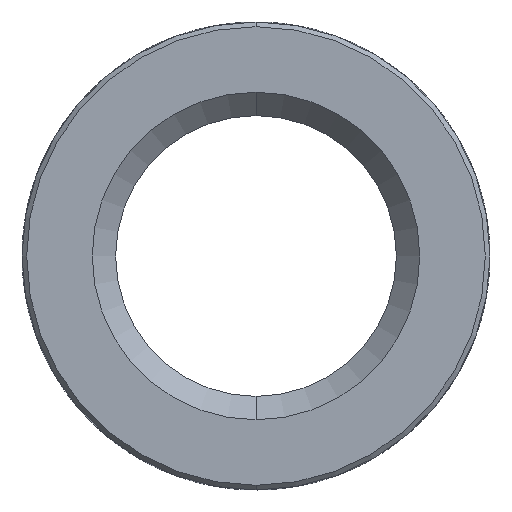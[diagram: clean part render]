
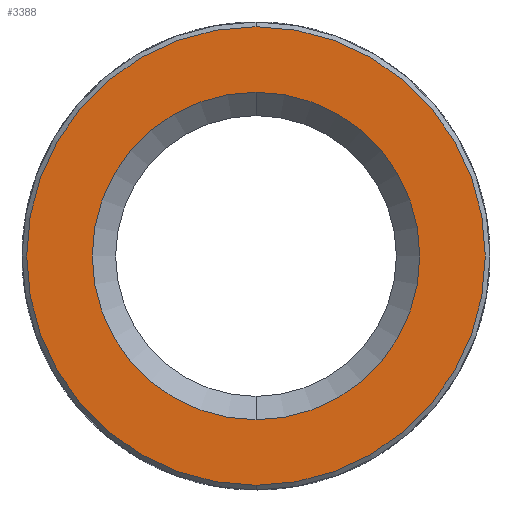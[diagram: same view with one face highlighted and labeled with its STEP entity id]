
A CAD part, front view. The second image highlights one B-rep face of the part: STEP entity #3388.
In plain terms, the highlighted planar face has unit normal (0, -1, 0).
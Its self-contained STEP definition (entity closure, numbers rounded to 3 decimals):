
#71 = VERTEX_POINT ( 'NONE', #3006 ) ;
#195 = DIRECTION ( 'NONE',  ( 0., 0., -1. ) ) ;
#206 = ORIENTED_EDGE ( 'NONE', *, *, #1276, .T. ) ;
#242 = DIRECTION ( 'NONE',  ( 0., 1., 0. ) ) ;
#246 = CARTESIAN_POINT ( 'NONE',  ( 0., -8.1, -4.9 ) ) ;
#314 = CIRCLE ( 'NONE', #3642, 3.5 ) ;
#339 = ORIENTED_EDGE ( 'NONE', *, *, #3165, .T. ) ;
#421 = CARTESIAN_POINT ( 'NONE',  ( 0., -8.1, 4.9 ) ) ;
#500 = DIRECTION ( 'NONE',  ( 0., -1., 0. ) ) ;
#546 = CARTESIAN_POINT ( 'NONE',  ( 0., -8.1, 0. ) ) ;
#882 = EDGE_CURVE ( 'NONE', #1732, #3601, #1440, .T. ) ;
#1048 = CIRCLE ( 'NONE', #2293, 4.9 ) ;
#1064 = CARTESIAN_POINT ( 'NONE',  ( 0., -8.1, 5. ) ) ;
#1094 = CARTESIAN_POINT ( 'NONE',  ( 0., -8.1, 0. ) ) ;
#1149 = FACE_BOUND ( 'NONE', #1962, .T. ) ;
#1276 = EDGE_CURVE ( 'NONE', #3288, #71, #1937, .T. ) ;
#1440 = CIRCLE ( 'NONE', #2211, 4.9 ) ;
#1611 = PLANE ( 'NONE',  #2006 ) ;
#1643 = DIRECTION ( 'NONE',  ( 0., -1., 0. ) ) ;
#1687 = FACE_OUTER_BOUND ( 'NONE', #2898, .T. ) ;
#1695 = DIRECTION ( 'NONE',  ( 0., 0., -1. ) ) ;
#1699 = DIRECTION ( 'NONE',  ( 0., 0., -1. ) ) ;
#1732 = VERTEX_POINT ( 'NONE', #246 ) ;
#1813 = ORIENTED_EDGE ( 'NONE', *, *, #882, .T. ) ;
#1937 = CIRCLE ( 'NONE', #3699, 3.5 ) ;
#1939 = CARTESIAN_POINT ( 'NONE',  ( 0., -8.1, 0. ) ) ;
#1962 = EDGE_LOOP ( 'NONE', ( #206, #339 ) ) ;
#2006 = AXIS2_PLACEMENT_3D ( 'NONE', #1064, #1643, #195 ) ;
#2092 = CARTESIAN_POINT ( 'NONE',  ( 0., -8.1, 0. ) ) ;
#2211 = AXIS2_PLACEMENT_3D ( 'NONE', #1939, #500, #1699 ) ;
#2293 = AXIS2_PLACEMENT_3D ( 'NONE', #2092, #2698, #2412 ) ;
#2412 = DIRECTION ( 'NONE',  ( 0., 0., -1. ) ) ;
#2591 = DIRECTION ( 'NONE',  ( 0., 0., -1. ) ) ;
#2698 = DIRECTION ( 'NONE',  ( 0., -1., 0. ) ) ;
#2898 = EDGE_LOOP ( 'NONE', ( #3386, #1813 ) ) ;
#3006 = CARTESIAN_POINT ( 'NONE',  ( 0., -8.1, 3.5 ) ) ;
#3025 = EDGE_CURVE ( 'NONE', #3601, #1732, #1048, .T. ) ;
#3165 = EDGE_CURVE ( 'NONE', #71, #3288, #314, .T. ) ;
#3288 = VERTEX_POINT ( 'NONE', #3762 ) ;
#3386 = ORIENTED_EDGE ( 'NONE', *, *, #3025, .T. ) ;
#3388 = ADVANCED_FACE ( 'NONE', ( #1687, #1149 ), #1611, .T. ) ;
#3601 = VERTEX_POINT ( 'NONE', #421 ) ;
#3642 = AXIS2_PLACEMENT_3D ( 'NONE', #1094, #242, #1695 ) ;
#3699 = AXIS2_PLACEMENT_3D ( 'NONE', #546, #3734, #2591 ) ;
#3734 = DIRECTION ( 'NONE',  ( 0., 1., 0. ) ) ;
#3762 = CARTESIAN_POINT ( 'NONE',  ( 0., -8.1, -3.5 ) ) ;
